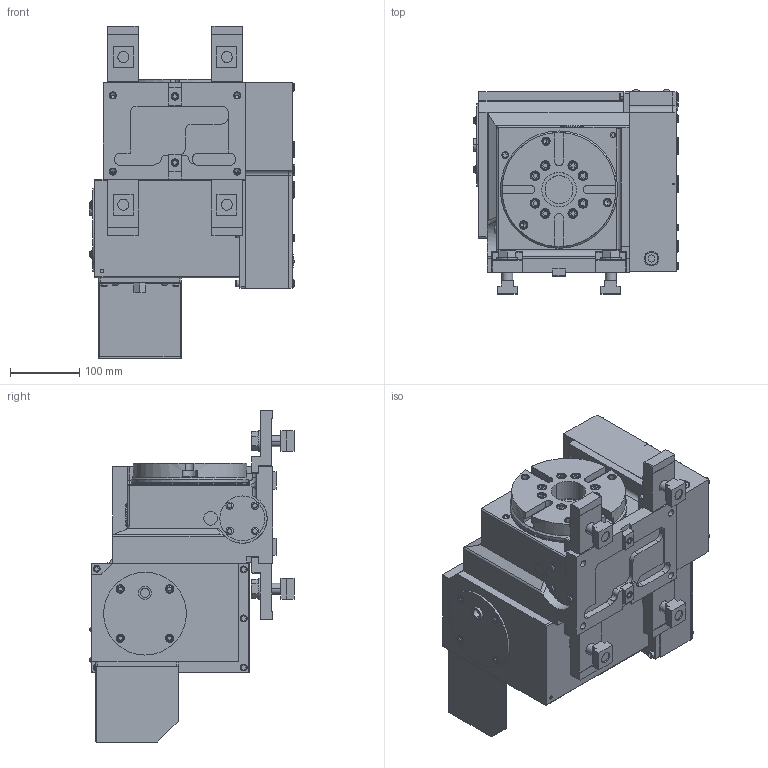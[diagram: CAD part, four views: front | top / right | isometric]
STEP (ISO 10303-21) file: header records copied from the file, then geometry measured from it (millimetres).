
FILE_DESCRIPTION (( 'STEP AP214' ), '1' );
FILE_NAME ('TBX160BF.STEP', '2019-12-03T07:45:03', ( '' ), ( '' ), 'SwSTEP 2.0', 'SolidWorks 2017', '' );
FILE_SCHEMA (( 'AUTOMOTIVE_DESIGN' ));
Length unit declared in the file: millimetre
Products named in the file (13): SMC KQ2E06-02; コネクタカバー(61E363968); コネクタプレート(61E4461165); 僇僶乕Q(61E4464542)TMX160B20; モータケース(TBX160BF); TBX160B01僋儈僞僥(61E112296); ギヤーボックス(61E1103032)TBX160B01; テーブル(61E3408190)TM160A00; 儂儞僞僀ASSY(61E1103072)TBX160B01; TBX160BF; CLAMPING PARTS(61E445870)結合; TBX160BFホンタイ; キタガワシール
Assembly tree (15 placements, depth 4):
  TBX160BF
    TBX160BFホンタイ
      TBX160B01僋儈僞僥(61E112296)
        儂儞僞僀ASSY(61E1103072)TBX160B01
        テーブル(61E3408190)TM160A00
        ギヤーボックス(61E1103032)TBX160B01
      モータケース(TBX160BF)
      僇僶乕Q(61E4464542)TMX160B20
      コネクタプレート(61E4461165)
      コネクタカバー(61E363968)
      SMC KQ2E06-02
      キタガワシール
    CLAMPING PARTS(61E445870)結合  x4
Bounding box: 297.6 x 295.75 x 481 mm (x, y, z)
Volume: 17020236 mm3; surface area: 1021509.4 mm2
Topology: 13 solids, 13 shells, 2682 faces, 7098 edges, 4660 vertices
Faces by surface type: plane 2056, cylinder 469, torus 80, cone 74, sphere 2, bspline 1
Entity records: 85397 total; most frequent: CARTESIAN_POINT 13855, ORIENTED_EDGE 13390, DIRECTION 12869, EDGE_CURVE 6695, LINE 5561, VECTOR 5561, VERTEX_POINT 4414, AXIS2_PLACEMENT_3D 3654
